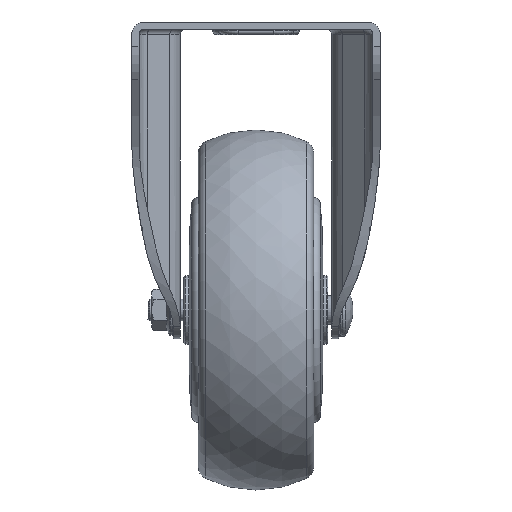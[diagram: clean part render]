
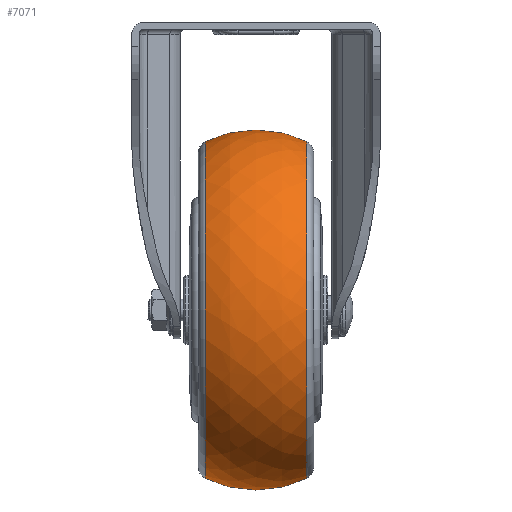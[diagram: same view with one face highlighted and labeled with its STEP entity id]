
A CAD part, left-side view. The second image highlights one B-rep face of the part: STEP entity #7071.
In plain terms, the highlighted free-form (B-spline) face has degree [2, 2] with [3, 9] control points.
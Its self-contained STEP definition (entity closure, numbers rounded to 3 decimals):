
#6999=CARTESIAN_POINT('',(46.758,-14.034,-36.));
#7000=VERTEX_POINT('',#6999);
#7001=CARTESIAN_POINT('',(0.,-14.034,-36.));
#7002=DIRECTION('',(0.0,-1.0,0.0));
#7003=DIRECTION('',(1.0,0.0,0.0));
#7004=AXIS2_PLACEMENT_3D('',#7001,#7002,#7003);
#7005=CIRCLE('',#7004,46.758);
#7006=EDGE_CURVE('',#7000,#7000,#7005,.T.);
#7022=CARTESIAN_POINT('',(0.,-14.034,-82.758));
#7023=CARTESIAN_POINT('',(0.,0.001,-89.608));
#7024=CARTESIAN_POINT('',(0.,14.036,-82.758));
#7025=CARTESIAN_POINT('',(46.758,-14.034,-82.758));
#7026=CARTESIAN_POINT('',(53.608,0.001,-89.608));
#7027=CARTESIAN_POINT('',(46.758,14.036,-82.758));
#7028=CARTESIAN_POINT('',(46.758,-14.034,-36.));
#7029=CARTESIAN_POINT('',(53.608,0.001,-36.));
#7030=CARTESIAN_POINT('',(46.758,14.036,-36.));
#7031=CARTESIAN_POINT('',(46.758,-14.034,10.758));
#7032=CARTESIAN_POINT('',(53.608,0.001,17.608));
#7033=CARTESIAN_POINT('',(46.758,14.036,10.758));
#7034=CARTESIAN_POINT('',(0.,-14.034,10.758));
#7035=CARTESIAN_POINT('',(0.,0.001,17.608));
#7036=CARTESIAN_POINT('',(0.,14.036,10.758));
#7037=CARTESIAN_POINT('',(-46.758,-14.034,10.758));
#7038=CARTESIAN_POINT('',(-53.608,0.001,17.608));
#7039=CARTESIAN_POINT('',(-46.758,14.036,10.758));
#7040=CARTESIAN_POINT('',(-46.758,-14.034,-36.));
#7041=CARTESIAN_POINT('',(-53.608,0.001,-36.));
#7042=CARTESIAN_POINT('',(-46.758,14.036,-36.));
#7043=CARTESIAN_POINT('',(-46.758,-14.034,-82.758));
#7044=CARTESIAN_POINT('',(-53.608,0.001,-89.608));
#7045=CARTESIAN_POINT('',(-46.758,14.036,-82.758));
#7046=CARTESIAN_POINT('',(0.,-14.034,-82.758));
#7047=CARTESIAN_POINT('',(0.,0.001,-89.608));
#7048=CARTESIAN_POINT('',(0.,14.036,-82.758));
#7056=(BOUNDED_SURFACE()B_SPLINE_SURFACE(2,2,((#7022,#7025,#7028,#7031,#7034,#7037,#7040,#7043,#7046),(#7023,#7026,#7029,#7032,#7035,#7038,#7041,#7044,#7047),(#7024,#7027,#7030,#7033,#7036,#7039,#7042,#7045,#7048)),.UNSPECIFIED.,.F.,.T.,.U.)B_SPLINE_SURFACE_WITH_KNOTS((3,3),(3,2,2,2,3),(-0.454,0.454),(0.0,1.571,3.142,4.712,6.283),.UNSPECIFIED.)GEOMETRIC_REPRESENTATION_ITEM()RATIONAL_B_SPLINE_SURFACE(((1.0,0.707,1.0,0.707,1.0,0.707,1.0,0.707,1.0),(0.899,0.635,0.899,0.635,0.899,0.635,0.899,0.635,0.899),(1.0,0.707,1.0,0.707,1.0,0.707,1.0,0.707,1.0)))REPRESENTATION_ITEM('')SURFACE());
#7057=CARTESIAN_POINT('',(46.758,14.036,-36.));
#7058=VERTEX_POINT('',#7057);
#7059=CARTESIAN_POINT('',(0.,14.036,-36.));
#7060=DIRECTION('',(0.0,-1.0,0.0));
#7061=DIRECTION('',(1.0,0.0,0.0));
#7062=AXIS2_PLACEMENT_3D('',#7059,#7060,#7061);
#7063=CIRCLE('',#7062,46.758);
#7064=EDGE_CURVE('',#7058,#7058,#7063,.T.);
#7065=ORIENTED_EDGE('',*,*,#7064,.T.);
#7066=EDGE_LOOP('',(#7065));
#7067=FACE_OUTER_BOUND('',#7066,.T.);
#7068=ORIENTED_EDGE('',*,*,#7006,.F.);
#7069=EDGE_LOOP('',(#7068));
#7070=FACE_BOUND('',#7069,.T.);
#7071=ADVANCED_FACE('',(#7067,#7070),#7056,.T.);
